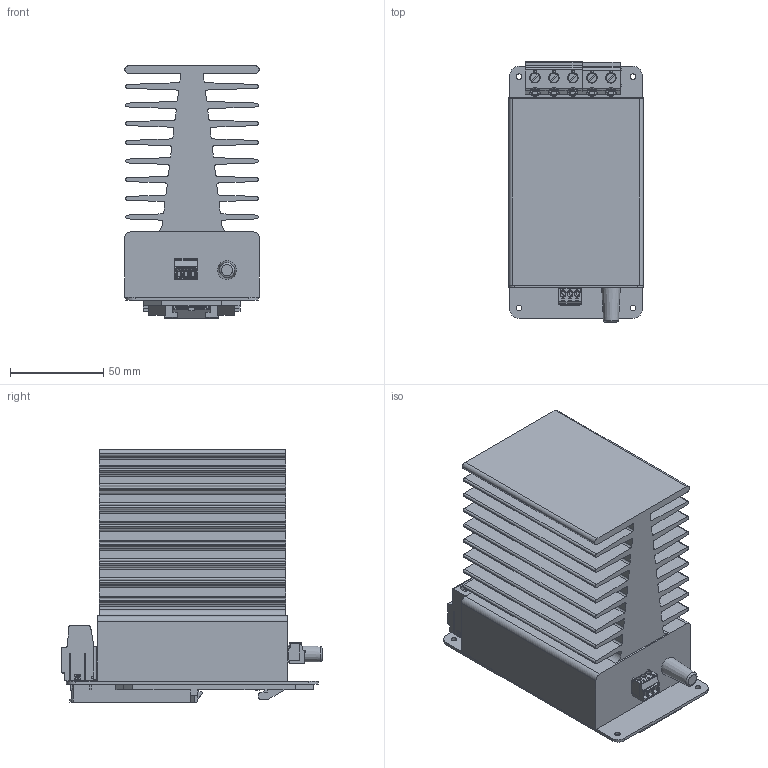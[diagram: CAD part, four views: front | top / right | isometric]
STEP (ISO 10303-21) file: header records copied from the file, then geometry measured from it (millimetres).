
FILE_DESCRIPTION(/* description */ ('','CAx-IF Rec.Pracs.---Representation and Presentation of Product Manufacturing Information (PMI)---4.0---2014-10-13'),/* implementation_level */ '2;1');
FILE_NAME(/* name */ 'VPL72_.step',/* time_stamp */ '2025-01-27T12:32:51+01:00',/* author */ (''),/* organization */ (''),/* preprocessor_version */ 'ST-DEVELOPER v20',/* originating_system */ 'Autodesk Translation Framework v13.20.0.188',/* authorisation */ '');
FILE_SCHEMA (('AP242_MANAGED_MODEL_BASED_3D_ENGINEERING_MIM_LF { 1 0 10303 442 1 1 4 }'));
Products named in the file (9): SK015; 1773976 v2; 1773976; 1774137 v1; 1774137; 1803581 v1; 1803581_1; UTA 130 v1; 2706412_1
Assembly tree (8 placements, depth 3):
  SK015
    1773976 v2
      1773976
    1774137 v1
      1774137
    1803581 v1
      1803581_1
    UTA 130 v1
      2706412_1
Bounding box: 72 x 139.36 x 135.21 mm (x, y, z)
Volume: 483633.5 mm3; surface area: 190834.1 mm2
Topology: 16 solids, 17 shells, 1736 faces, 4749 edges, 3124 vertices
Faces by surface type: plane 1332, cylinder 344, cone 39, torus 9, sphere 6, bspline 6
Full cylindrical faces by diameter (mm): 0.296 x1, 0.457 x2, 1.18 x3, 1.2 x6, 1.5 x10, 2 x9, 2.8 x3, 2.9 x3, 3 x4, 3.3 x13, 5 x5, 5.6 x5, 12 x1
Entity records: 60051 total; most frequent: CARTESIAN_POINT 14380, ORIENTED_EDGE 9486, DIRECTION 9066, EDGE_CURVE 4743, LINE 3780, VECTOR 3780, VERTEX_POINT 3124, AXIS2_PLACEMENT_3D 2643
